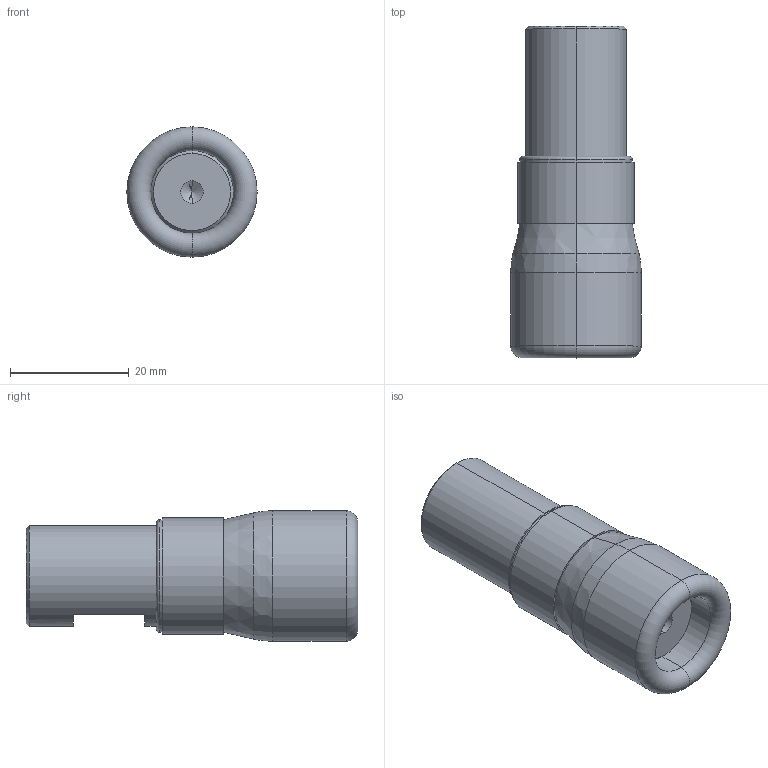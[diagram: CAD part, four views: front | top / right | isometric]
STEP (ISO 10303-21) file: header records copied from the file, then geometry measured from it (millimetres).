
FILE_DESCRIPTION(('STEP AP214'),'1');
FILE_NAME('CA.09.14.17.S.stp','2020-04-02T14:18:23',(' '),(' '),'Spatial InterOp 3D',' ',' ');
FILE_SCHEMA(('AUTOMOTIVE_DESIGN { 1 0 10303 214 1 1 1 1 }'));
Length unit declared in the file: millimetre
Products named in the file (4): CA.09.14.17.S
Assembly tree (3 placements, depth 2):
  CA.09.14.17.S
    CA.09.14.17.S
    CA.09.14.17.S
    CA.09.14.17.S
Bounding box: 22 x 56 x 22 mm (x, y, z)
Volume: 14924.6 mm3; surface area: 6970.1 mm2
Topology: 3 solids, 3 shells, 51 faces, 112 edges, 66 vertices
Faces by surface type: cylinder 22, cone 12, plane 11, torus 4, bspline 2
Entity records: 1962 total; most frequent: CARTESIAN_POINT 285, DIRECTION 272, ORIENTED_EDGE 216, AXIS2_PLACEMENT_3D 117, EDGE_CURVE 108, VERTEX_POINT 66, CIRCLE 64, EDGE_LOOP 60
